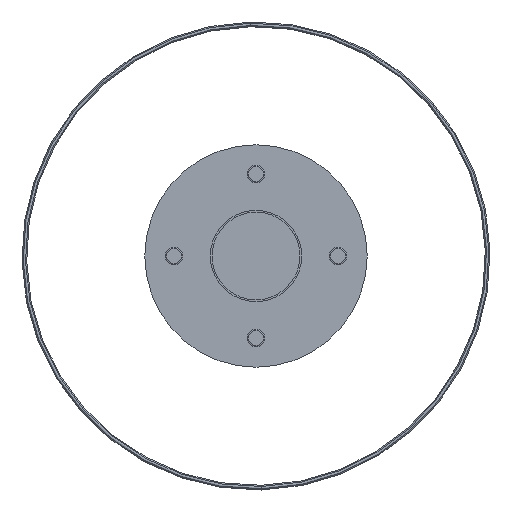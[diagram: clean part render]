
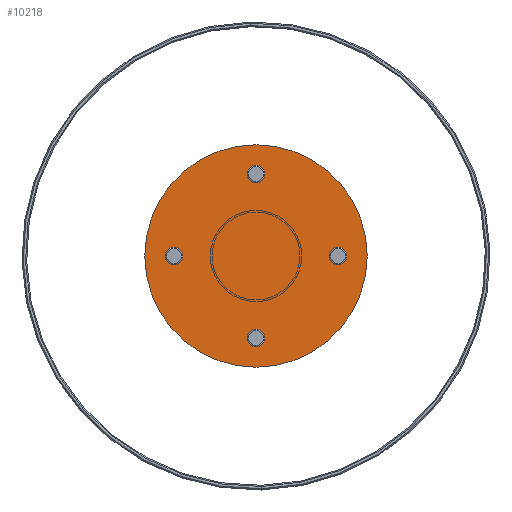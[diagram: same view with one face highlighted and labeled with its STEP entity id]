
A CAD part, front view. The second image highlights one B-rep face of the part: STEP entity #10218.
In plain terms, the highlighted planar face has unit normal (0, -1, 0).
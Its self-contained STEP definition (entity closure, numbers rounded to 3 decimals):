
#519 = EDGE_CURVE ( 'NONE', #1100, #7873, #4234, .T. ) ;
#1100 = VERTEX_POINT ( 'NONE', #11991 ) ;
#3156 = CIRCLE ( 'NONE', #11829, 95. ) ;
#4234 = CIRCLE ( 'NONE', #7214, 95. ) ;
#5976 = EDGE_LOOP ( 'NONE', ( #16129, #10810 ) ) ;
#6197 = DIRECTION ( 'NONE',  ( 0., 0., 1. ) ) ;
#6243 = AXIS2_PLACEMENT_3D ( 'NONE', #15164, #15065, #6197 ) ;
#6361 = PLANE ( 'NONE',  #6243 ) ;
#7214 = AXIS2_PLACEMENT_3D ( 'NONE', #8450, #12020, #10971 ) ;
#7261 = CARTESIAN_POINT ( 'NONE',  ( -77.323, -256.135, 493.23 ) ) ;
#7873 = VERTEX_POINT ( 'NONE', #9871 ) ;
#8407 = DIRECTION ( 'NONE',  ( 0., 1., 0. ) ) ;
#8450 = CARTESIAN_POINT ( 'NONE',  ( -77.323, -256.135, 493.23 ) ) ;
#8986 = EDGE_CURVE ( 'NONE', #7873, #1100, #3156, .T. ) ;
#9871 = CARTESIAN_POINT ( 'NONE',  ( -77.323, -256.135, 588.23 ) ) ;
#10218 = ADVANCED_FACE ( 'NONE', ( #16331 ), #6361, .F. ) ;
#10810 = ORIENTED_EDGE ( 'NONE', *, *, #519, .F. ) ;
#10971 = DIRECTION ( 'NONE',  ( 0., 0., 1. ) ) ;
#11829 = AXIS2_PLACEMENT_3D ( 'NONE', #7261, #8407, #13416 ) ;
#11991 = CARTESIAN_POINT ( 'NONE',  ( -77.323, -256.135, 398.23 ) ) ;
#12020 = DIRECTION ( 'NONE',  ( 0., 1., 0. ) ) ;
#13416 = DIRECTION ( 'NONE',  ( 0., 0., 1. ) ) ;
#15065 = DIRECTION ( 'NONE',  ( 0., 1., 0. ) ) ;
#15164 = CARTESIAN_POINT ( 'NONE',  ( -77.323, -256.135, 493.23 ) ) ;
#16129 = ORIENTED_EDGE ( 'NONE', *, *, #8986, .F. ) ;
#16331 = FACE_OUTER_BOUND ( 'NONE', #5976, .T. ) ;
